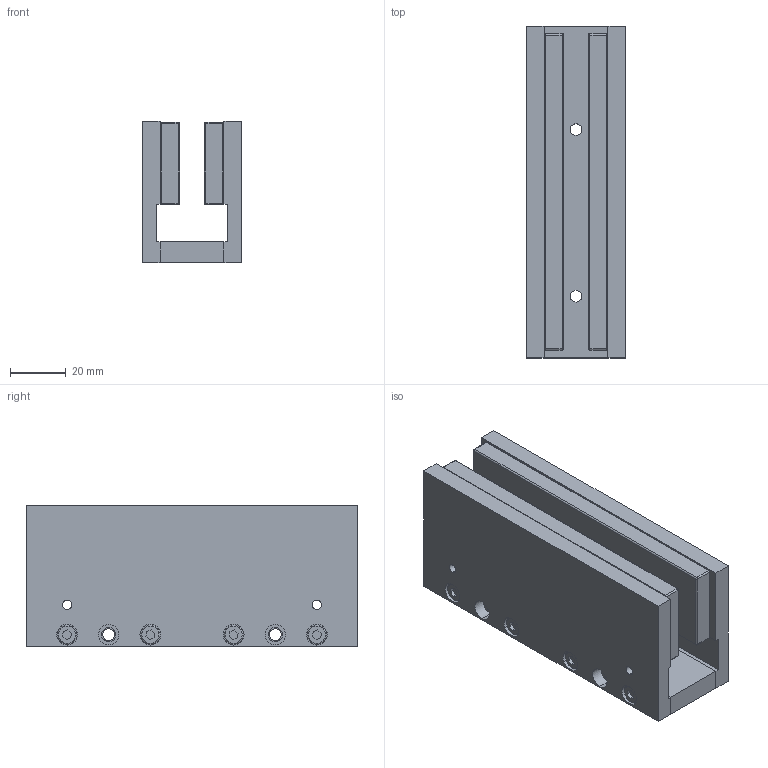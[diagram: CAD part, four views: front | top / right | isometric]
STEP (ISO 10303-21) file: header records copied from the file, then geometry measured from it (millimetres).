
FILE_DESCRIPTION (( 'STEP AP203' ), '1' );
FILE_NAME ('DX30F-TL120.step', '2021-01-04T10:13:57', ( '' ), ( '' ), 'SwSTEP 2.0', 'SolidWorks 2020', '' );
FILE_SCHEMA (( 'CONFIG_CONTROL_DESIGN' ));
Length unit declared in the file: millimetre
Products named in the file (1): DX30F-TL120
Bounding box: 35.7 x 119.5 x 50.8 mm (x, y, z)
Volume: 138426.5 mm3; surface area: 41016 mm2
Topology: 1 solids, 13 shells, 296 faces, 652 edges, 400 vertices
Faces by surface type: plane 136, cylinder 128, sphere 16, torus 16
Entity records: 8149 total; most frequent: DIRECTION 1518, CARTESIAN_POINT 1333, ORIENTED_EDGE 1272, EDGE_CURVE 636, AXIS2_PLACEMENT_3D 585, VERTEX_POINT 400, EDGE_LOOP 362, LINE 348
